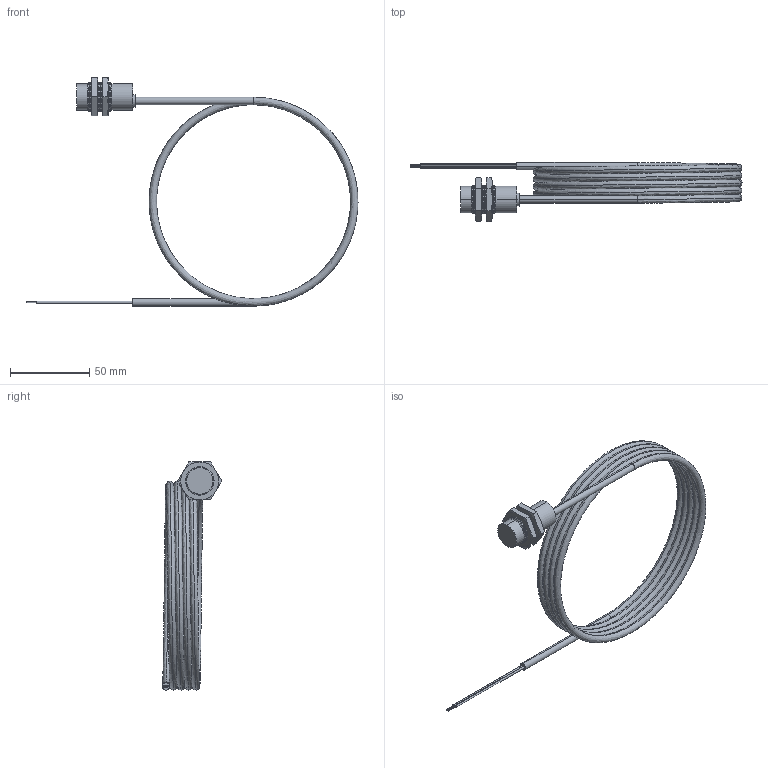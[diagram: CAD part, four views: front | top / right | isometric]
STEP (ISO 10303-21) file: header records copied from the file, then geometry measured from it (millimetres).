
FILE_DESCRIPTION (( 'STEP AP203' ), '1' );
FILE_NAME ('90-XXXX-004.STEP', '2015-10-28T13:07:45', ( 'Sam' ), ( 'Spade' ), 'SwSTEP 2.0', 'SolidWorks 2002296', '' );
FILE_SCHEMA (( 'CONFIG_CONTROL_DESIGN' ));
Length unit declared in the file: inch
Products named in the file (13): 90-XXXX-004; Imported28; Imported31; Imported30; Imported34; Imported33; Imported32; Imported38; Imported37; Imported36; Imported35; Imported39; Imported29
Assembly tree (12 placements, depth 2):
  90-XXXX-004
    Imported30
    Imported39
    Imported34
    Imported37
    Imported35
    Imported29
    Imported31
    Imported28
    Imported33
    Imported38
    Imported36
    Imported32
Bounding box: 209.36 x 37.45 x 143.88 mm (x, y, z)
Volume: 45575.8 mm3; surface area: 35929.1 mm2
Topology: 12 solids, 12 shells, 259 faces, 518 edges, 290 vertices
Faces by surface type: cone 122, cylinder 84, plane 43, bspline 10
Entity records: 9731 total; most frequent: CARTESIAN_POINT 2958, DIRECTION 1238, ORIENTED_EDGE 1036, AXIS2_PLACEMENT_3D 522, EDGE_CURVE 518, VERTEX_POINT 290, EDGE_LOOP 270, FACE_OUTER_BOUND 259
